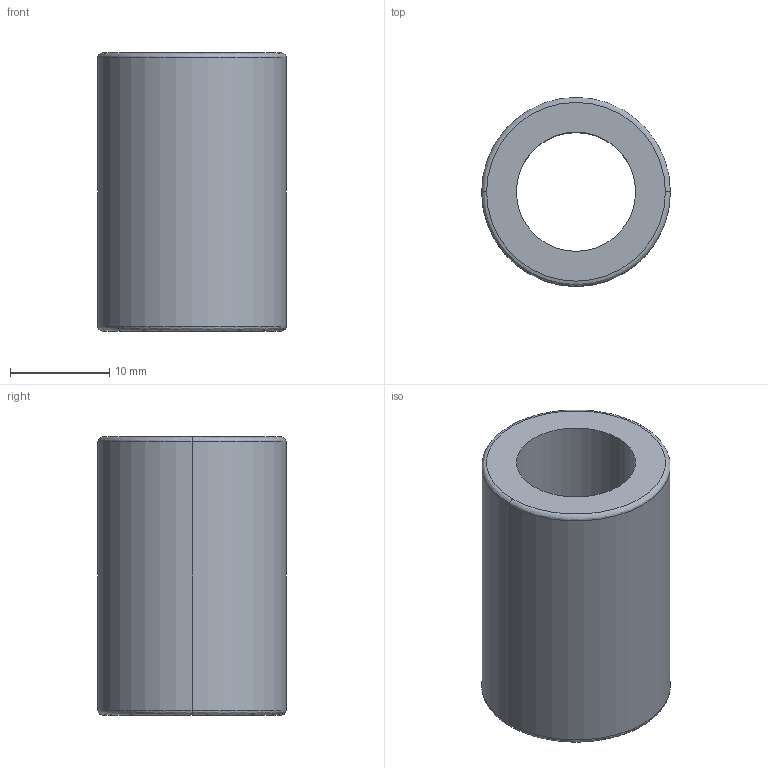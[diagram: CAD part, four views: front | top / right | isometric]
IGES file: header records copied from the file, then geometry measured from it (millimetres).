
Start section: 3D InterOp IGES (Version 21 0 1), Spatial Corp. Copyright (c) 1999-2007.
Global section: file name: CB-12.igs; native system: Spatial Corp.; preprocessor: 3D InterOp GENERIC/IGES 3.0; author: Noname; organization: Noname; date: 20220216.101543; units: millimetre
Bounding box: 19 x 19 x 28 mm (x, y, z)
Surface area: 3041.9 mm2 (no closed solid volume)
Topology: 0 solids, 0 shells, 10 faces, 40 edges, 40 vertices
Faces by surface type: revolution 8, extrusion 2
